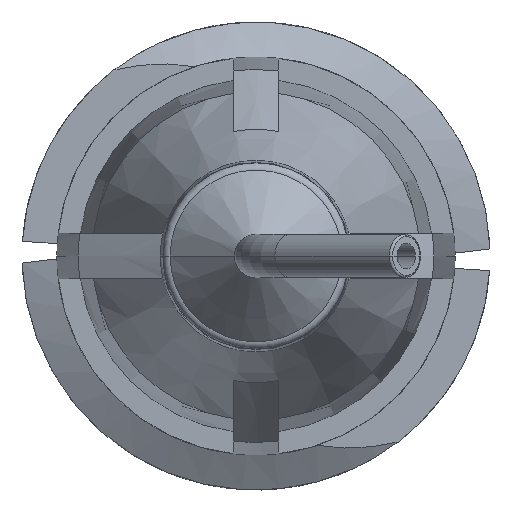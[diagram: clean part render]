
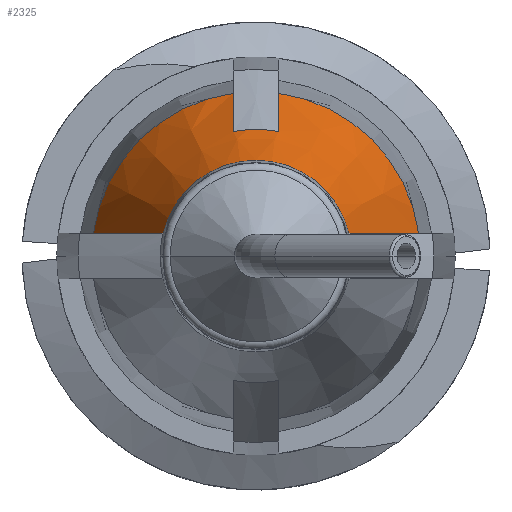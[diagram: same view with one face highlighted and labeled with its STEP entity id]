
A CAD part, front view. The second image highlights one B-rep face of the part: STEP entity #2325.
In plain terms, the highlighted conical face has half-angle 20 degrees and reference radius 2.745 mm.
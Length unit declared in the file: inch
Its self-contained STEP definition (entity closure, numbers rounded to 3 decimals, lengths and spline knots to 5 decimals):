
#3 = CARTESIAN_POINT ( 'NONE',  ( -0.015, -0.47395, 0.08198 ) ) ;
#74 = AXIS2_PLACEMENT_3D ( 'NONE', #2712, #2784, #4545 ) ;
#103 = VERTEX_POINT ( 'NONE', #3241 ) ;
#202 = CARTESIAN_POINT ( 'NONE',  ( 0.015, -0.45131, 0.09036 ) ) ;
#253 = CARTESIAN_POINT ( 'NONE',  ( 0.015, -0.42866, 0.0987 ) ) ;
#262 = VERTEX_POINT ( 'NONE', #2033 ) ;
#348 = DIRECTION ( 'NONE',  ( -1., 0., 0. ) ) ;
#450 = ORIENTED_EDGE ( 'NONE', *, *, #1280, .T. ) ;
#459 = VERTEX_POINT ( 'NONE', #2757 ) ;
#591 = AXIS2_PLACEMENT_3D ( 'NONE', #2112, #3538, #1316 ) ;
#673 = VERTEX_POINT ( 'NONE', #4437 ) ;
#808 = EDGE_CURVE ( 'NONE', #2496, #1936, #2565, .T. ) ;
#1051 = CARTESIAN_POINT ( 'NONE',  ( -0.10703, -0.406, 0.015 ) ) ;
#1087 = CONICAL_SURFACE ( 'NONE', #2807, 0.10808, 0.349 ) ;
#1140 = ORIENTED_EDGE ( 'NONE', *, *, #3792, .F. ) ;
#1253 = ORIENTED_EDGE ( 'NONE', *, *, #2247, .F. ) ;
#1268 = B_SPLINE_CURVE_WITH_KNOTS ( 'NONE', 3,
 ( #4223, #202, #253, #1729 ),
 .UNSPECIFIED., .F., .F.,
 ( 4, 4 ),
 ( 0.00247, 0.00431 ),
 .UNSPECIFIED. ) ;
#1280 = EDGE_CURVE ( 'NONE', #459, #262, #4326, .T. ) ;
#1293 = EDGE_LOOP ( 'NONE', ( #1140, #450, #1364, #1719, #4237, #1418, #2286, #1253 ) ) ;
#1316 = DIRECTION ( 'NONE',  ( -1., 0., 0. ) ) ;
#1364 = ORIENTED_EDGE ( 'NONE', *, *, #1414, .T. ) ;
#1369 = B_SPLINE_CURVE_WITH_KNOTS ( 'NONE', 3,
 ( #1431, #4686, #1405, #3 ),
 .UNSPECIFIED., .F., .F.,
 ( 4, 4 ),
 ( 0.00343, 0.00527 ),
 .UNSPECIFIED. ) ;
#1405 = CARTESIAN_POINT ( 'NONE',  ( -0.015, -0.45131, 0.09036 ) ) ;
#1414 = EDGE_CURVE ( 'NONE', #262, #1936, #1858, .T. ) ;
#1418 = ORIENTED_EDGE ( 'NONE', *, *, #4013, .F. ) ;
#1431 = CARTESIAN_POINT ( 'NONE',  ( -0.015, -0.406, 0.10703 ) ) ;
#1441 = DIRECTION ( 'NONE',  ( 0., 1., 0. ) ) ;
#1456 = DIRECTION ( 'NONE',  ( -1., 0., 0. ) ) ;
#1697 = CIRCLE ( 'NONE', #74, 0.10808 ) ;
#1719 = ORIENTED_EDGE ( 'NONE', *, *, #808, .F. ) ;
#1729 = CARTESIAN_POINT ( 'NONE',  ( 0.015, -0.406, 0.10703 ) ) ;
#1765 = AXIS2_PLACEMENT_3D ( 'NONE', #4364, #1441, #348 ) ;
#1858 = B_SPLINE_CURVE_WITH_KNOTS ( 'NONE', 3,
 ( #3957, #2191, #2470, #3190 ),
 .UNSPECIFIED., .F., .F.,
 ( 4, 4 ),
 ( 0.00282, 0.00617 ),
 .UNSPECIFIED. ) ;
#1861 = CARTESIAN_POINT ( 'NONE',  ( 0., -0.406, 0. ) ) ;
#1936 = VERTEX_POINT ( 'NONE', #4184 ) ;
#2023 = CIRCLE ( 'NONE', #3129, 0.08335 ) ;
#2033 = CARTESIAN_POINT ( 'NONE',  ( 0.06119, -0.52985, 0.015 ) ) ;
#2037 = CARTESIAN_POINT ( 'NONE',  ( 0., -0.47395, 0. ) ) ;
#2112 = CARTESIAN_POINT ( 'NONE',  ( 0., -0.406, 0. ) ) ;
#2191 = CARTESIAN_POINT ( 'NONE',  ( 0.07664, -0.48863, 0.015 ) ) ;
#2241 = EDGE_CURVE ( 'NONE', #3054, #2496, #1268, .T. ) ;
#2247 = EDGE_CURVE ( 'NONE', #4452, #673, #1697, .T. ) ;
#2286 = ORIENTED_EDGE ( 'NONE', *, *, #4678, .F. ) ;
#2313 = CARTESIAN_POINT ( 'NONE',  ( 0.015, -0.406, 0.10703 ) ) ;
#2325 = ADVANCED_FACE ( 'NONE', ( #4341 ), #1087, .T. ) ;
#2470 = CARTESIAN_POINT ( 'NONE',  ( 0.09185, -0.44732, 0.015 ) ) ;
#2496 = VERTEX_POINT ( 'NONE', #2313 ) ;
#2565 = CIRCLE ( 'NONE', #591, 0.10808 ) ;
#2712 = CARTESIAN_POINT ( 'NONE',  ( 0., -0.406, 0. ) ) ;
#2757 = CARTESIAN_POINT ( 'NONE',  ( -0.06119, -0.52985, 0.015 ) ) ;
#2784 = DIRECTION ( 'NONE',  ( 0., 1., 0. ) ) ;
#2807 = AXIS2_PLACEMENT_3D ( 'NONE', #1861, #4361, #1456 ) ;
#2908 = CARTESIAN_POINT ( 'NONE',  ( -0.09185, -0.44732, 0.015 ) ) ;
#3054 = VERTEX_POINT ( 'NONE', #3864 ) ;
#3094 = DIRECTION ( 'NONE',  ( 0., 1., 0. ) ) ;
#3129 = AXIS2_PLACEMENT_3D ( 'NONE', #2037, #3094, #3866 ) ;
#3190 = CARTESIAN_POINT ( 'NONE',  ( 0.10703, -0.406, 0.015 ) ) ;
#3196 = CARTESIAN_POINT ( 'NONE',  ( -0.07664, -0.48863, 0.015 ) ) ;
#3241 = CARTESIAN_POINT ( 'NONE',  ( -0.015, -0.47395, 0.08198 ) ) ;
#3538 = DIRECTION ( 'NONE',  ( 0., 1., 0. ) ) ;
#3613 = CARTESIAN_POINT ( 'NONE',  ( -0.10703, -0.406, 0.015 ) ) ;
#3623 = B_SPLINE_CURVE_WITH_KNOTS ( 'NONE', 3,
 ( #4349, #3196, #2908, #3613 ),
 .UNSPECIFIED., .F., .F.,
 ( 4, 4 ),
 ( 0.00282, 0.00617 ),
 .UNSPECIFIED. ) ;
#3792 = EDGE_CURVE ( 'NONE', #459, #4452, #3623, .T. ) ;
#3864 = CARTESIAN_POINT ( 'NONE',  ( 0.015, -0.47395, 0.08198 ) ) ;
#3866 = DIRECTION ( 'NONE',  ( 1., 0., 0. ) ) ;
#3957 = CARTESIAN_POINT ( 'NONE',  ( 0.06119, -0.52985, 0.015 ) ) ;
#4013 = EDGE_CURVE ( 'NONE', #103, #3054, #2023, .T. ) ;
#4184 = CARTESIAN_POINT ( 'NONE',  ( 0.10703, -0.406, 0.015 ) ) ;
#4223 = CARTESIAN_POINT ( 'NONE',  ( 0.015, -0.47395, 0.08198 ) ) ;
#4237 = ORIENTED_EDGE ( 'NONE', *, *, #2241, .F. ) ;
#4326 = CIRCLE ( 'NONE', #1765, 0.063 ) ;
#4341 = FACE_OUTER_BOUND ( 'NONE', #1293, .T. ) ;
#4349 = CARTESIAN_POINT ( 'NONE',  ( -0.06119, -0.52985, 0.015 ) ) ;
#4361 = DIRECTION ( 'NONE',  ( 0., 1., 0. ) ) ;
#4364 = CARTESIAN_POINT ( 'NONE',  ( 0., -0.52985, 0. ) ) ;
#4437 = CARTESIAN_POINT ( 'NONE',  ( -0.015, -0.406, 0.10703 ) ) ;
#4452 = VERTEX_POINT ( 'NONE', #1051 ) ;
#4545 = DIRECTION ( 'NONE',  ( -1., 0., 0. ) ) ;
#4678 = EDGE_CURVE ( 'NONE', #673, #103, #1369, .T. ) ;
#4686 = CARTESIAN_POINT ( 'NONE',  ( -0.015, -0.42866, 0.0987 ) ) ;
